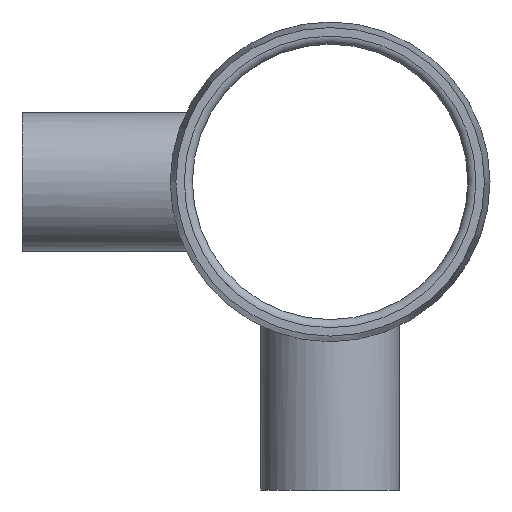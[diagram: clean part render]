
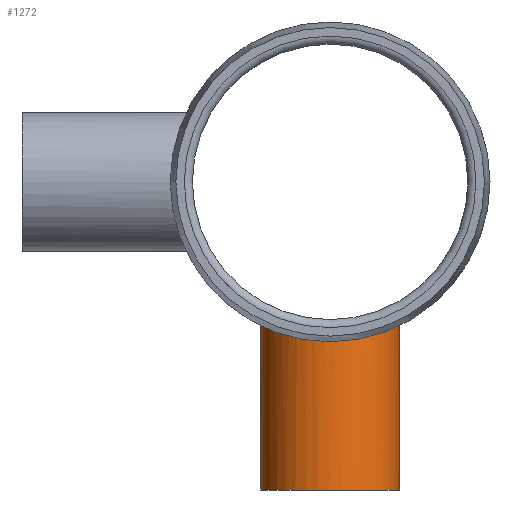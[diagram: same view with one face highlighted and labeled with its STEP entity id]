
A CAD part, left-side view. The second image highlights one B-rep face of the part: STEP entity #1272.
In plain terms, the highlighted cylindrical face has radius 16.701 mm (diameter 33.401 mm), a full revolution.
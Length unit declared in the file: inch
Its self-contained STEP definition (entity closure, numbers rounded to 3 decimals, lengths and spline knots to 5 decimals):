
#106=FACE_OUTER_BOUND('',#167,.T.);
#167=EDGE_LOOP('',(#810,#811,#812,#813,#814));
#239=B_SPLINE_CURVE_WITH_KNOTS('',3,(#2139,#2140,#2141,#2142,#2143,#2144,
#2145,#2146,#2147,#2148,#2149,#2150,#2151,#2152,#2153,#2154,#2155,#2156),
 .UNSPECIFIED.,.F.,.F.,(4,2,2,2,2,2,2,2,4),(0.,0.31956,0.63912,
0.95868,1.27824,1.59732,1.9164,2.23548,
2.55456),.UNSPECIFIED.);
#240=B_SPLINE_CURVE_WITH_KNOTS('',3,(#2157,#2158,#2159,#2160,#2161,#2162,
#2163,#2164,#2165,#2166,#2167,#2168,#2169,#2170,#2171,#2172,#2173,#2174,
#2175,#2176,#2177,#2178,#2179,#2180,#2181,#2182,#2183,#2184,#2185,#2186,
#2187,#2188,#2189,#2190,#2191,#2192,#2193,#2194,#2195,#2196,#2197,#2198,
#2199,#2200,#2201,#2202,#2203,#2204,#2205,#2206),.UNSPECIFIED.,.F.,.F.,
(4,2,2,2,2,2,2,2,2,2,2,2,2,2,2,2,2,2,2,2,2,2,2,2,4),(2.55456,2.87364,
3.19271,3.51179,3.83087,4.15043,4.46999,
4.78955,5.10912,5.42868,5.74824,6.0678,
6.38736,6.70644,7.02552,7.3446,7.66367,
7.98275,8.30183,8.62091,8.93999,9.25955,
9.57911,9.89867,10.21823),.UNSPECIFIED.);
#247=LINE('',#2208,#271);
#271=VECTOR('',#1604,0.6575);
#296=CIRCLE('',#1356,0.6575);
#462=VERTEX_POINT('',#2137);
#463=VERTEX_POINT('',#2138);
#464=VERTEX_POINT('',#2207);
#610=EDGE_CURVE('',#462,#463,#239,.T.);
#611=EDGE_CURVE('',#463,#462,#240,.T.);
#612=EDGE_CURVE('',#463,#464,#247,.T.);
#613=EDGE_CURVE('',#464,#464,#296,.T.);
#810=ORIENTED_EDGE('',*,*,#610,.F.);
#811=ORIENTED_EDGE('',*,*,#611,.F.);
#812=ORIENTED_EDGE('',*,*,#612,.T.);
#813=ORIENTED_EDGE('',*,*,#613,.F.);
#814=ORIENTED_EDGE('',*,*,#612,.F.);
#1193=CYLINDRICAL_SURFACE('',#1355,0.6575);
#1272=ADVANCED_FACE('',(#106),#1193,.T.);
#1355=AXIS2_PLACEMENT_3D('',#2136,#1602,#1603);
#1356=AXIS2_PLACEMENT_3D('',#2209,#1605,#1606);
#1602=DIRECTION('center_axis',(0.,0.,1.));
#1603=DIRECTION('ref_axis',(-1.,0.,0.));
#1604=DIRECTION('',(0.,0.,-1.));
#1605=DIRECTION('center_axis',(0.,0.,-1.));
#1606=DIRECTION('ref_axis',(-1.,0.,0.));
#2136=CARTESIAN_POINT('Origin',(1.96,0.,-2.92));
#2137=CARTESIAN_POINT('',(1.96,-0.6575,-1.34822));
#2138=CARTESIAN_POINT('',(2.6175,0.,-1.5));
#2139=CARTESIAN_POINT('Ctrl Pts',(1.96,-0.6575,-1.34822));
#2140=CARTESIAN_POINT('Ctrl Pts',(2.00194,-0.6575,-1.34822));
#2141=CARTESIAN_POINT('Ctrl Pts',(2.04509,-0.65342,-1.35023));
#2142=CARTESIAN_POINT('Ctrl Pts',(2.13052,-0.6365,-1.35829));
#2143=CARTESIAN_POINT('Ctrl Pts',(2.1728,-0.62365,-1.36433));
#2144=CARTESIAN_POINT('Ctrl Pts',(2.25358,-0.58994,-1.37924));
#2145=CARTESIAN_POINT('Ctrl Pts',(2.29216,-0.56906,-1.38811));
#2146=CARTESIAN_POINT('Ctrl Pts',(2.36338,-0.521,-1.40685));
#2147=CARTESIAN_POINT('Ctrl Pts',(2.39603,-0.49382,-1.41671));
#2148=CARTESIAN_POINT('Ctrl Pts',(2.45378,-0.43607,-1.43554));
#2149=CARTESIAN_POINT('Ctrl Pts',(2.48095,-0.40344,-1.44519));
#2150=CARTESIAN_POINT('Ctrl Pts',(2.52902,-0.33221,-1.46321));
#2151=CARTESIAN_POINT('Ctrl Pts',(2.54993,-0.2936,-1.47156));
#2152=CARTESIAN_POINT('Ctrl Pts',(2.58367,-0.21276,-1.4854));
#2153=CARTESIAN_POINT('Ctrl Pts',(2.59652,-0.17044,-1.4909));
#2154=CARTESIAN_POINT('Ctrl Pts',(2.61344,-0.085,
-1.4982));
#2155=CARTESIAN_POINT('Ctrl Pts',(2.6175,-0.04187,-1.5));
#2156=CARTESIAN_POINT('Ctrl Pts',(2.6175,0.,-1.5));
#2157=CARTESIAN_POINT('Ctrl Pts',(2.6175,0.,-1.5));
#2158=CARTESIAN_POINT('Ctrl Pts',(2.6175,0.04187,-1.5));
#2159=CARTESIAN_POINT('Ctrl Pts',(2.61344,0.085,-1.4982));
#2160=CARTESIAN_POINT('Ctrl Pts',(2.59652,0.17044,-1.4909));
#2161=CARTESIAN_POINT('Ctrl Pts',(2.58367,0.21276,-1.4854));
#2162=CARTESIAN_POINT('Ctrl Pts',(2.54993,0.2936,-1.47156));
#2163=CARTESIAN_POINT('Ctrl Pts',(2.52902,0.33221,-1.46321));
#2164=CARTESIAN_POINT('Ctrl Pts',(2.48095,0.40344,-1.44519));
#2165=CARTESIAN_POINT('Ctrl Pts',(2.45378,0.43607,-1.43554));
#2166=CARTESIAN_POINT('Ctrl Pts',(2.39603,0.49382,-1.41671));
#2167=CARTESIAN_POINT('Ctrl Pts',(2.36338,0.521,-1.40685));
#2168=CARTESIAN_POINT('Ctrl Pts',(2.29216,0.56906,-1.38811));
#2169=CARTESIAN_POINT('Ctrl Pts',(2.25358,0.58994,-1.37924));
#2170=CARTESIAN_POINT('Ctrl Pts',(2.1728,0.62365,-1.36433));
#2171=CARTESIAN_POINT('Ctrl Pts',(2.13052,0.6365,-1.35829));
#2172=CARTESIAN_POINT('Ctrl Pts',(2.04509,0.65342,-1.35023));
#2173=CARTESIAN_POINT('Ctrl Pts',(2.00194,0.6575,-1.34822));
#2174=CARTESIAN_POINT('Ctrl Pts',(1.91806,0.6575,-1.34822));
#2175=CARTESIAN_POINT('Ctrl Pts',(1.87491,0.65342,-1.35023));
#2176=CARTESIAN_POINT('Ctrl Pts',(1.78948,0.6365,-1.35829));
#2177=CARTESIAN_POINT('Ctrl Pts',(1.7472,0.62365,-1.36433));
#2178=CARTESIAN_POINT('Ctrl Pts',(1.66642,0.58994,-1.37924));
#2179=CARTESIAN_POINT('Ctrl Pts',(1.62784,0.56906,-1.38811));
#2180=CARTESIAN_POINT('Ctrl Pts',(1.55662,0.521,-1.40685));
#2181=CARTESIAN_POINT('Ctrl Pts',(1.52397,0.49382,-1.41671));
#2182=CARTESIAN_POINT('Ctrl Pts',(1.46622,0.43607,-1.43554));
#2183=CARTESIAN_POINT('Ctrl Pts',(1.43905,0.40344,-1.44519));
#2184=CARTESIAN_POINT('Ctrl Pts',(1.39098,0.33221,-1.46321));
#2185=CARTESIAN_POINT('Ctrl Pts',(1.37007,0.2936,-1.47156));
#2186=CARTESIAN_POINT('Ctrl Pts',(1.33633,0.21276,-1.4854));
#2187=CARTESIAN_POINT('Ctrl Pts',(1.32348,0.17044,-1.4909));
#2188=CARTESIAN_POINT('Ctrl Pts',(1.30656,0.085,-1.4982));
#2189=CARTESIAN_POINT('Ctrl Pts',(1.3025,0.04187,-1.5));
#2190=CARTESIAN_POINT('Ctrl Pts',(1.3025,-0.04187,-1.5));
#2191=CARTESIAN_POINT('Ctrl Pts',(1.30656,-0.085,
-1.4982));
#2192=CARTESIAN_POINT('Ctrl Pts',(1.32348,-0.17044,-1.4909));
#2193=CARTESIAN_POINT('Ctrl Pts',(1.33633,-0.21276,-1.4854));
#2194=CARTESIAN_POINT('Ctrl Pts',(1.37007,-0.2936,-1.47156));
#2195=CARTESIAN_POINT('Ctrl Pts',(1.39098,-0.33221,-1.46321));
#2196=CARTESIAN_POINT('Ctrl Pts',(1.43905,-0.40344,-1.44519));
#2197=CARTESIAN_POINT('Ctrl Pts',(1.46622,-0.43607,-1.43554));
#2198=CARTESIAN_POINT('Ctrl Pts',(1.52397,-0.49382,-1.41671));
#2199=CARTESIAN_POINT('Ctrl Pts',(1.55662,-0.521,-1.40685));
#2200=CARTESIAN_POINT('Ctrl Pts',(1.62784,-0.56906,-1.38811));
#2201=CARTESIAN_POINT('Ctrl Pts',(1.66642,-0.58994,-1.37924));
#2202=CARTESIAN_POINT('Ctrl Pts',(1.7472,-0.62365,-1.36433));
#2203=CARTESIAN_POINT('Ctrl Pts',(1.78948,-0.6365,-1.35829));
#2204=CARTESIAN_POINT('Ctrl Pts',(1.87491,-0.65342,-1.35023));
#2205=CARTESIAN_POINT('Ctrl Pts',(1.91806,-0.6575,-1.34822));
#2206=CARTESIAN_POINT('Ctrl Pts',(1.96,-0.6575,-1.34822));
#2207=CARTESIAN_POINT('',(2.6175,0.,-2.92));
#2208=CARTESIAN_POINT('',(2.6175,0.,-2.92));
#2209=CARTESIAN_POINT('Origin',(1.96,0.,-2.92));
